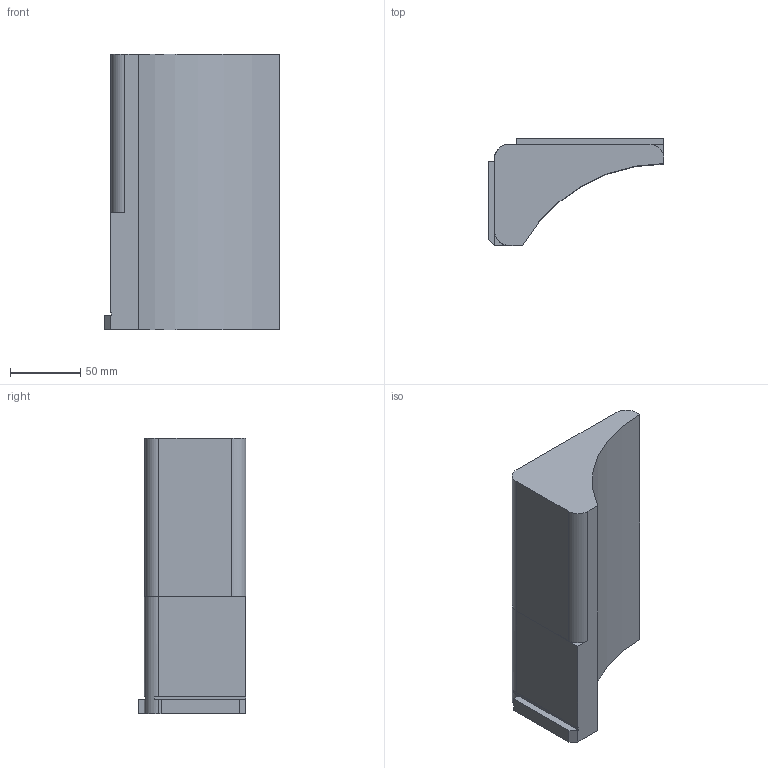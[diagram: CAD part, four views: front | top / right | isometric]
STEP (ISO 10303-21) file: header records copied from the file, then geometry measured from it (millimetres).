
FILE_DESCRIPTION(('STEP AP203'), '1');
FILE_NAME('16 鎗飶罻', '', ('UNSPECIFIED'), ('UNSPECIFIED'), 'C3D Converter', 'C3D Toolkit', '');
FILE_SCHEMA(('CONFIG_CONTROL_DESIGN'));
Length unit declared in the file: millimetre
Products named in the file (1): ПФН 295 106/16
Bounding box: 125 x 76.47 x 196 mm (x, y, z)
Volume: 884511.5 mm3; surface area: 77150.8 mm2
Topology: 1 solids, 1 shells, 27 faces, 75 edges, 50 vertices
Faces by surface type: plane 22, cylinder 5
Entity records: 1114 total; most frequent: CARTESIAN_POINT 153, ORIENTED_EDGE 150, DIRECTION 145, EDGE_CURVE 75, LINE 61, VECTOR 61, VERTEX_POINT 50, AXIS2_PLACEMENT_3D 42
